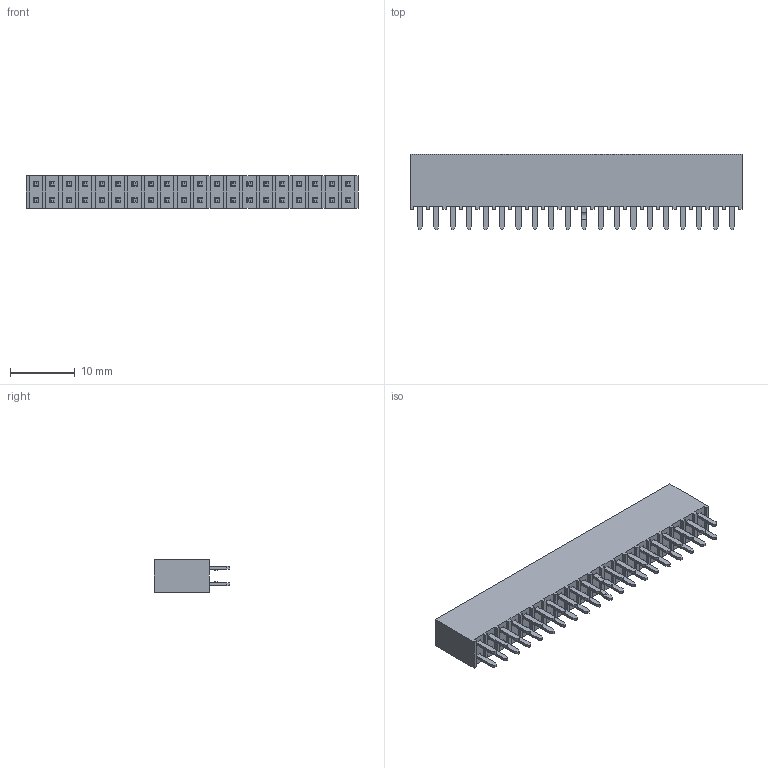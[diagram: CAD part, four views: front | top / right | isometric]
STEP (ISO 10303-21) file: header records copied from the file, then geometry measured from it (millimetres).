
FILE_DESCRIPTION(/* description */ ('STEP AP242','CAx-IF Rec.Pracs.---Representation and Presentation of Product Manufacturing Information (PMI)---4.0---2014-10-13','CAx-IF Rec.Pracs.---3D Tessellated Geometry---0.4---2014-09-14','2;1'),/* implementation_level */ '2;1');
FILE_NAME(/* name */ 'SSW-120-06-SM-D-LL',/* time_stamp */ '2026-04-29T10:16:04+02:00',/* author */ ('License CC BY-ND 4.0'),/* organization */ ('CADENAS'),/* preprocessor_version */ 'ST-DEVELOPER v20',/* originating_system */ 'PARTsolutions',/* authorisation */ ' ');
FILE_SCHEMA (('AP242_MANAGED_MODEL_BASED_3D_ENGINEERING_MIM_LF { 1 0 10303 442 1 1 4 }'));
Length unit declared in the file: inch
Products named in the file (3): SSW-120-06-SM-D-LL; T1SSW-120-06-SM-D-LL; P2SSW-120-06-SM-D-LL
Assembly tree (2 placements, depth 2):
  SSW-120-06-SM-D-LL
    T1SSW-120-06-SM-D-LL
    P2SSW-120-06-SM-D-LL
Bounding box: 51.31 x 11.66 x 4.95 mm (x, y, z)
Volume: 1935.2 mm3; surface area: 3238.8 mm2
Topology: 2 solids, 2 shells, 544 faces, 1500 edges, 1000 vertices
Faces by surface type: plane 536, cylinder 8
Entity records: 17190 total; most frequent: CARTESIAN_POINT 3047, ORIENTED_EDGE 3000, DIRECTION 2610, EDGE_CURVE 1500, LINE 1484, VECTOR 1484, VERTEX_POINT 1000, EDGE_LOOP 664
